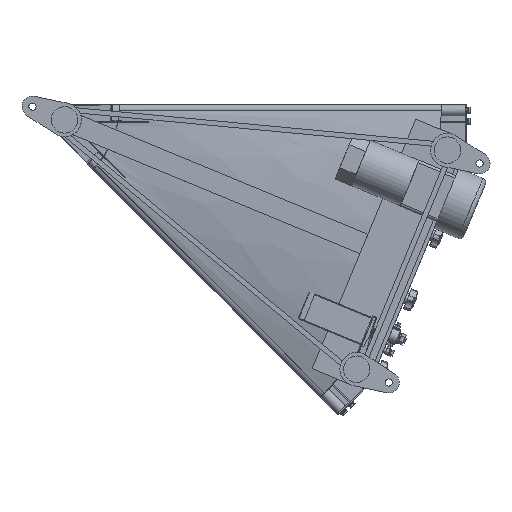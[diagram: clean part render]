
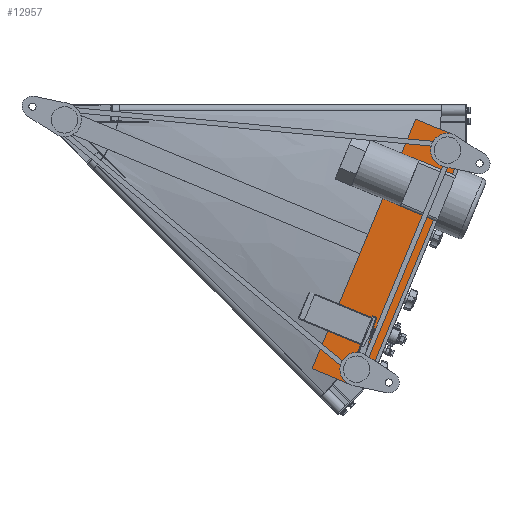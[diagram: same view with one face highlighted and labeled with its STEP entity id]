
A CAD part, front view. The second image highlights one B-rep face of the part: STEP entity #12957.
In plain terms, the highlighted planar face has unit normal (0, -1, 0).
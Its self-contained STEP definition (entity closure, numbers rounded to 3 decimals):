
#529 = CARTESIAN_POINT ( 'NONE',  ( 578.998, -167.5, -505.015 ) ) ;
#1105 = ORIENTED_EDGE ( 'NONE', *, *, #23920, .F. ) ;
#1400 = ORIENTED_EDGE ( 'NONE', *, *, #6641, .F. ) ;
#3494 = LINE ( 'NONE', #4607, #30041 ) ;
#3571 = CARTESIAN_POINT ( 'NONE',  ( 13.567, -167.5, -5.62 ) ) ;
#3573 = CARTESIAN_POINT ( 'NONE',  ( 514.326, -167.5, -478.227 ) ) ;
#3640 = VERTEX_POINT ( 'NONE', #9863 ) ;
#4019 = EDGE_CURVE ( 'NONE', #28562, #11379, #8050, .T. ) ;
#4607 = CARTESIAN_POINT ( 'NONE',  ( 578.998, -167.5, -505.015 ) ) ;
#4757 = EDGE_LOOP ( 'NONE', ( #1400, #28530, #13982, #12435, #31868, #1105 ) ) ;
#4765 = CARTESIAN_POINT ( 'NONE',  ( 701.841, -167.5, -25.526 ) ) ;
#5545 = LINE ( 'NONE', #18388, #32461 ) ;
#5987 = CARTESIAN_POINT ( 'NONE',  ( 782.749, -167.5, -91.511 ) ) ;
#6641 = EDGE_CURVE ( 'NONE', #25409, #3640, #15962, .T. ) ;
#8043 = EDGE_CURVE ( 'NONE', #15226, #25409, #20287, .T. ) ;
#8050 = LINE ( 'NONE', #16990, #11725 ) ;
#9863 = CARTESIAN_POINT ( 'NONE',  ( 782.749, -167.5, -91.511 ) ) ;
#9990 = DIRECTION ( 'NONE',  ( 0.924, 0., -0.383 ) ) ;
#10358 = CARTESIAN_POINT ( 'NONE',  ( 514.326, -167.5, -478.227 ) ) ;
#11097 = VECTOR ( 'NONE', #9990, 1000. ) ;
#11379 = VERTEX_POINT ( 'NONE', #3573 ) ;
#11725 = VECTOR ( 'NONE', #19560, 1000. ) ;
#12044 = EDGE_CURVE ( 'NONE', #31308, #28562, #3494, .T. ) ;
#12435 = ORIENTED_EDGE ( 'NONE', *, *, #4019, .F. ) ;
#12957 = ADVANCED_FACE ( 'NONE', ( #23952 ), #14195, .F. ) ;
#13982 = ORIENTED_EDGE ( 'NONE', *, *, #32682, .F. ) ;
#14195 = PLANE ( 'NONE',  #14483 ) ;
#14483 = AXIS2_PLACEMENT_3D ( 'NONE', #3571, #21780, #32035 ) ;
#14794 = VECTOR ( 'NONE', #18795, 1000. ) ;
#15226 = VERTEX_POINT ( 'NONE', #33304 ) ;
#15962 = LINE ( 'NONE', #5987, #14794 ) ;
#16990 = CARTESIAN_POINT ( 'NONE',  ( 514.326, -167.5, -478.227 ) ) ;
#18388 = CARTESIAN_POINT ( 'NONE',  ( 618.195, -167.5, -488.779 ) ) ;
#18795 = DIRECTION ( 'NONE',  ( 0.383, 0., -0.924 ) ) ;
#19560 = DIRECTION ( 'NONE',  ( -0.924, 0., 0.383 ) ) ;
#20287 = LINE ( 'NONE', #4765, #11097 ) ;
#21780 = DIRECTION ( 'NONE',  ( 0., 1., 0. ) ) ;
#23920 = EDGE_CURVE ( 'NONE', #3640, #31308, #5545, .T. ) ;
#23952 = FACE_OUTER_BOUND ( 'NONE', #4757, .T. ) ;
#25409 = VERTEX_POINT ( 'NONE', #28787 ) ;
#25815 = DIRECTION ( 'NONE',  ( 0.383, 0., 0.924 ) ) ;
#26339 = DIRECTION ( 'NONE',  ( -0.383, 0., -0.924 ) ) ;
#28530 = ORIENTED_EDGE ( 'NONE', *, *, #8043, .F. ) ;
#28562 = VERTEX_POINT ( 'NONE', #529 ) ;
#28787 = CARTESIAN_POINT ( 'NONE',  ( 766.513, -167.5, -52.314 ) ) ;
#28822 = VECTOR ( 'NONE', #25815, 1000. ) ;
#29616 = LINE ( 'NONE', #10358, #28822 ) ;
#30041 = VECTOR ( 'NONE', #30356, 1000. ) ;
#30356 = DIRECTION ( 'NONE',  ( -0.924, 0., -0.383 ) ) ;
#31308 = VERTEX_POINT ( 'NONE', #31881 ) ;
#31868 = ORIENTED_EDGE ( 'NONE', *, *, #12044, .F. ) ;
#31881 = CARTESIAN_POINT ( 'NONE',  ( 618.195, -167.5, -488.779 ) ) ;
#32035 = DIRECTION ( 'NONE',  ( 0.078, 0., 0.997 ) ) ;
#32461 = VECTOR ( 'NONE', #26339, 1000. ) ;
#32682 = EDGE_CURVE ( 'NONE', #11379, #15226, #29616, .T. ) ;
#33304 = CARTESIAN_POINT ( 'NONE',  ( 701.841, -167.5, -25.526 ) ) ;
